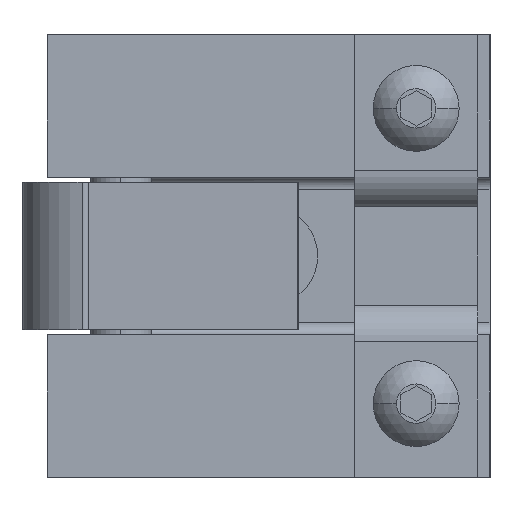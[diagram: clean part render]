
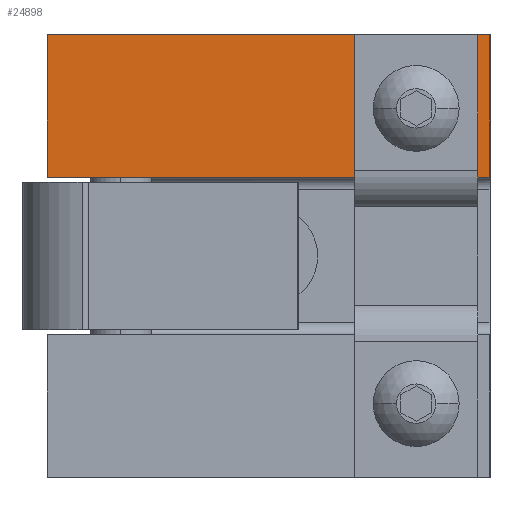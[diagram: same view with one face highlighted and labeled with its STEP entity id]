
A CAD part, left-side view. The second image highlights one B-rep face of the part: STEP entity #24898.
In plain terms, the highlighted planar face has unit normal (-1, 0, 0).
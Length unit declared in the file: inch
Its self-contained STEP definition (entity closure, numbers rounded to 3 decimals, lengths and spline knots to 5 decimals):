
#24889 = ORIENTED_EDGE ( 'NONE', *, *, #25783, .F. ) ;
#24894 = ORIENTED_EDGE ( 'NONE', *, *, #24895, .F. ) ;
#24895 = EDGE_CURVE ( 'NONE', #24896, #24897, #26042, .T. ) ;
#24896 = VERTEX_POINT ( 'NONE', #26036 ) ;
#24897 = VERTEX_POINT ( 'NONE', #26033 ) ;
#24898 = ADVANCED_FACE ( 'NONE', ( #26031, #26029 ), #26191, .T. ) ;
#24899 = EDGE_LOOP ( 'NONE', ( #24894, #24889 ) ) ;
#25602 = EDGE_CURVE ( 'NONE', #25745, #25604, #26410, .T. ) ;
#25604 = VERTEX_POINT ( 'NONE', #26401 ) ;
#25745 = VERTEX_POINT ( 'NONE', #26726 ) ;
#25759 = ORIENTED_EDGE ( 'NONE', *, *, #25761, .F. ) ;
#25761 = EDGE_CURVE ( 'NONE', #25604, #25771, #26716, .T. ) ;
#25764 = ORIENTED_EDGE ( 'NONE', *, *, #25602, .F. ) ;
#25767 = VERTEX_POINT ( 'NONE', #26709 ) ;
#25768 = ORIENTED_EDGE ( 'NONE', *, *, #25770, .T. ) ;
#25770 = EDGE_CURVE ( 'NONE', #25767, #25771, #27116, .T. ) ;
#25771 = VERTEX_POINT ( 'NONE', #27109 ) ;
#25773 = EDGE_LOOP ( 'NONE', ( #25774, #25768, #25759, #25764 ) ) ;
#25774 = ORIENTED_EDGE ( 'NONE', *, *, #25776, .F. ) ;
#25776 = EDGE_CURVE ( 'NONE', #25767, #25745, #27106, .T. ) ;
#25783 = EDGE_CURVE ( 'NONE', #24897, #24896, #27078, .T. ) ;
#26019 = CARTESIAN_POINT ( 'NONE',  ( -1.6053, -0.84701, 0.80551 ) ) ;
#26029 = FACE_OUTER_BOUND ( 'NONE', #25773, .T. ) ;
#26031 = FACE_BOUND ( 'NONE', #24899, .T. ) ;
#26033 = CARTESIAN_POINT ( 'NONE',  ( -1.6053, -0.84701, 0.68051 ) ) ;
#26036 = CARTESIAN_POINT ( 'NONE',  ( -1.6053, -0.84701, 0.93051 ) ) ;
#26038 = DIRECTION ( 'NONE',  ( 0., 0., 1. ) ) ;
#26039 = DIRECTION ( 'NONE',  ( -1., 0., 0. ) ) ;
#26040 = AXIS2_PLACEMENT_3D ( 'NONE', #26019, #26039, #26038 ) ;
#26042 = CIRCLE ( 'NONE', #26040, 0.125 ) ;
#26186 = DIRECTION ( 'NONE',  ( 0., 0., 1. ) ) ;
#26187 = DIRECTION ( 'NONE',  ( -1., 0., 0. ) ) ;
#26188 = CARTESIAN_POINT ( 'NONE',  ( -1.6053, -1.22201, -1.06949 ) ) ;
#26189 = AXIS2_PLACEMENT_3D ( 'NONE', #26188, #26187, #26186 ) ;
#26191 = PLANE ( 'NONE',  #26189 ) ;
#26401 = CARTESIAN_POINT ( 'NONE',  ( -1.6053, 1.02799, 1.18051 ) ) ;
#26403 = DIRECTION ( 'NONE',  ( 0., 0., 1. ) ) ;
#26405 = VECTOR ( 'NONE', #26403, 39.37008 ) ;
#26408 = CARTESIAN_POINT ( 'NONE',  ( -1.6053, 1.02799, -1.06949 ) ) ;
#26410 = LINE ( 'NONE', #26408, #26405 ) ;
#26709 = CARTESIAN_POINT ( 'NONE',  ( -1.6053, -1.22201, 0.45551 ) ) ;
#26711 = DIRECTION ( 'NONE',  ( 0., -1., 0. ) ) ;
#26713 = VECTOR ( 'NONE', #26711, 39.37008 ) ;
#26715 = CARTESIAN_POINT ( 'NONE',  ( -1.6053, -1.22201, 1.18051 ) ) ;
#26716 = LINE ( 'NONE', #26715, #26713 ) ;
#26726 = CARTESIAN_POINT ( 'NONE',  ( -1.6053, 1.02799, 0.45551 ) ) ;
#27074 = DIRECTION ( 'NONE',  ( 0., 0., 1. ) ) ;
#27075 = DIRECTION ( 'NONE',  ( -1., 0., 0. ) ) ;
#27076 = AXIS2_PLACEMENT_3D ( 'NONE', #27093, #27075, #27074 ) ;
#27078 = CIRCLE ( 'NONE', #27076, 0.125 ) ;
#27093 = CARTESIAN_POINT ( 'NONE',  ( -1.6053, -0.84701, 0.80551 ) ) ;
#27101 = DIRECTION ( 'NONE',  ( 0., 1., 0. ) ) ;
#27102 = VECTOR ( 'NONE', #27101, 39.37008 ) ;
#27105 = CARTESIAN_POINT ( 'NONE',  ( -1.6053, -1.22201, 0.45551 ) ) ;
#27106 = LINE ( 'NONE', #27105, #27102 ) ;
#27109 = CARTESIAN_POINT ( 'NONE',  ( -1.6053, -1.22201, 1.18051 ) ) ;
#27111 = DIRECTION ( 'NONE',  ( 0., 0., 1. ) ) ;
#27113 = VECTOR ( 'NONE', #27111, 39.37008 ) ;
#27115 = CARTESIAN_POINT ( 'NONE',  ( -1.6053, -1.22201, -1.06949 ) ) ;
#27116 = LINE ( 'NONE', #27115, #27113 ) ;
